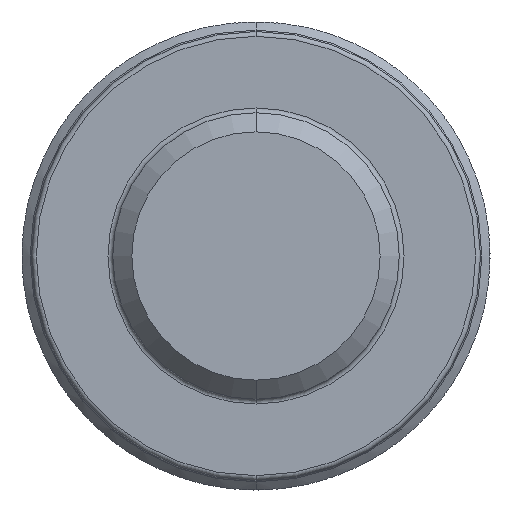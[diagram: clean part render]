
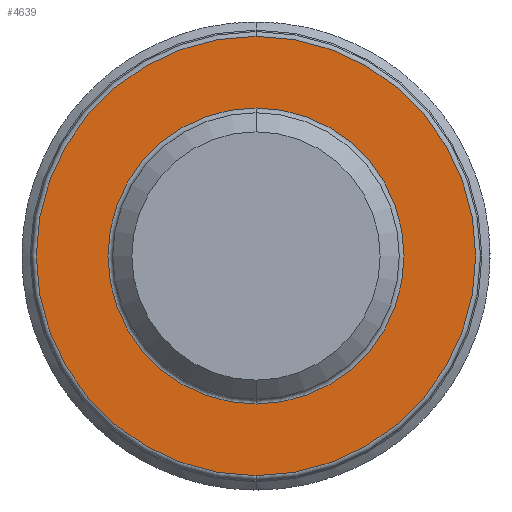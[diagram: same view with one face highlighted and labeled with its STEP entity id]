
A CAD part, front view. The second image highlights one B-rep face of the part: STEP entity #4639.
In plain terms, the highlighted planar face has unit normal (0, -1, 0).
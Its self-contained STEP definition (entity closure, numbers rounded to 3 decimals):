
#402 = EDGE_CURVE ( 'NONE', #5517, #1470, #6978, .T. ) ;
#563 = EDGE_CURVE ( 'NONE', #1470, #5517, #5100, .T. ) ;
#738 = EDGE_CURVE ( 'NONE', #7286, #4747, #2133, .T. ) ;
#990 = ORIENTED_EDGE ( 'NONE', *, *, #563, .T. ) ;
#1306 = PLANE ( 'NONE',  #8319 ) ;
#1470 = VERTEX_POINT ( 'NONE', #7435 ) ;
#1558 = CARTESIAN_POINT ( 'NONE',  ( 0., -6., 4.6 ) ) ;
#1586 = DIRECTION ( 'NONE',  ( 0., 1., 0. ) ) ;
#1597 = DIRECTION ( 'NONE',  ( 0., -1., 0. ) ) ;
#2133 = CIRCLE ( 'NONE', #2951, 3.1 ) ;
#2264 = DIRECTION ( 'NONE',  ( 0., 0., -1. ) ) ;
#2627 = DIRECTION ( 'NONE',  ( 0., -1., 0. ) ) ;
#2849 = EDGE_LOOP ( 'NONE', ( #990, #4675 ) ) ;
#2951 = AXIS2_PLACEMENT_3D ( 'NONE', #7415, #1586, #2264 ) ;
#3181 = FACE_BOUND ( 'NONE', #7559, .T. ) ;
#3641 = DIRECTION ( 'NONE',  ( 0., 1., 0. ) ) ;
#3715 = CARTESIAN_POINT ( 'NONE',  ( 0., -6., 3.1 ) ) ;
#3964 = DIRECTION ( 'NONE',  ( 0., 0., -1. ) ) ;
#4507 = EDGE_CURVE ( 'NONE', #4747, #7286, #7089, .T. ) ;
#4639 = ADVANCED_FACE ( 'NONE', ( #3181, #5830 ), #1306, .T. ) ;
#4675 = ORIENTED_EDGE ( 'NONE', *, *, #402, .T. ) ;
#4747 = VERTEX_POINT ( 'NONE', #3715 ) ;
#4819 = CARTESIAN_POINT ( 'NONE',  ( 0., -6., 0. ) ) ;
#4858 = DIRECTION ( 'NONE',  ( 0., 0., -1. ) ) ;
#4943 = AXIS2_PLACEMENT_3D ( 'NONE', #5075, #3641, #7652 ) ;
#5075 = CARTESIAN_POINT ( 'NONE',  ( 0., -6., 0. ) ) ;
#5100 = CIRCLE ( 'NONE', #6174, 4.6 ) ;
#5196 = DIRECTION ( 'NONE',  ( 0., 0., -1. ) ) ;
#5278 = CARTESIAN_POINT ( 'NONE',  ( 3., -6., 0. ) ) ;
#5347 = CARTESIAN_POINT ( 'NONE',  ( 0., -6., -3.1 ) ) ;
#5501 = AXIS2_PLACEMENT_3D ( 'NONE', #4819, #1597, #4858 ) ;
#5517 = VERTEX_POINT ( 'NONE', #1558 ) ;
#5731 = ORIENTED_EDGE ( 'NONE', *, *, #738, .T. ) ;
#5830 = FACE_OUTER_BOUND ( 'NONE', #2849, .T. ) ;
#6174 = AXIS2_PLACEMENT_3D ( 'NONE', #7202, #7249, #3964 ) ;
#6978 = CIRCLE ( 'NONE', #5501, 4.6 ) ;
#7089 = CIRCLE ( 'NONE', #4943, 3.1 ) ;
#7202 = CARTESIAN_POINT ( 'NONE',  ( 0., -6., 0. ) ) ;
#7249 = DIRECTION ( 'NONE',  ( 0., -1., 0. ) ) ;
#7286 = VERTEX_POINT ( 'NONE', #5347 ) ;
#7415 = CARTESIAN_POINT ( 'NONE',  ( 0., -6., 0. ) ) ;
#7435 = CARTESIAN_POINT ( 'NONE',  ( 0., -6., -4.6 ) ) ;
#7559 = EDGE_LOOP ( 'NONE', ( #5731, #8307 ) ) ;
#7652 = DIRECTION ( 'NONE',  ( 0., 0., -1. ) ) ;
#8307 = ORIENTED_EDGE ( 'NONE', *, *, #4507, .T. ) ;
#8319 = AXIS2_PLACEMENT_3D ( 'NONE', #5278, #2627, #5196 ) ;
